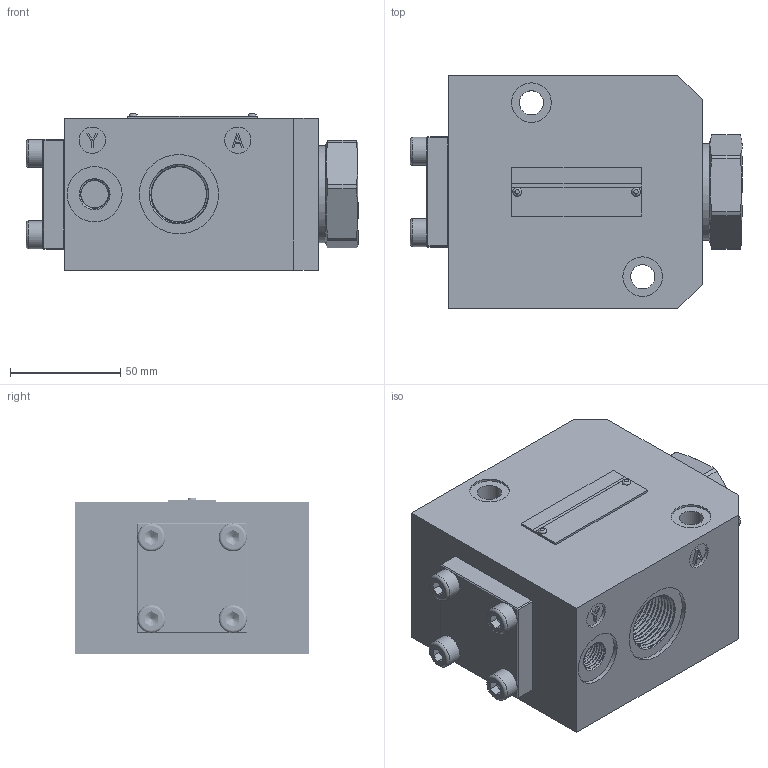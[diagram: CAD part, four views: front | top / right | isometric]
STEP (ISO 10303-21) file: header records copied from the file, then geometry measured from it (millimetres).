
FILE_DESCRIPTION(/* description */ (''),/* implementation_level */ '2;1');
FILE_NAME(/* name */ 'SL15G-1(2)-4XJ液控单向阀（管式）.prt.stp',/* time_stamp */ '2022-03-30T19:18:22+08:00',/* author */ (''),/* organization */ (''),/* preprocessor_version */ 'ST-DEVELOPER v16.7',/* originating_system */ 'SIEMENS PLM Software NX 12.0',/* authorisation */ '');
FILE_SCHEMA (('AUTOMOTIVE_DESIGN { 1 0 10303 214 3 1 1 1 }'));
Products named in the file (1): SL15G-1(2)-4XJ液控单向阀（管式）
Bounding box: 150.74 x 106 x 71 mm (x, y, z)
Volume: 866545.3 mm3; surface area: 100859.8 mm2
Topology: 10 solids, 10 shells, 431 faces, 1039 edges, 655 vertices
Faces by surface type: plane 193, cylinder 121, cone 45, bspline 38, extrusion 26, torus 8
Full cylindrical faces by diameter (mm): 1.8 x6, 3.4 x1, 5 x2, 6.7 x52, 9 x4, 11 x2, 12 x4, 12.73 x4, 16.6 x1, 18 x2, 25 x2, 29.2 x1, 36 x3, 39.7 x1, 40.5 x1, 44 x2
Entity records: 61110 total; most frequent: CARTESIAN_POINT 52639, ORIENTED_EDGE 1550, DIRECTION 1396, EDGE_CURVE 775, VERTEX_POINT 535, EDGE_LOOP 505, AXIS2_PLACEMENT_3D 504, VECTOR 388
